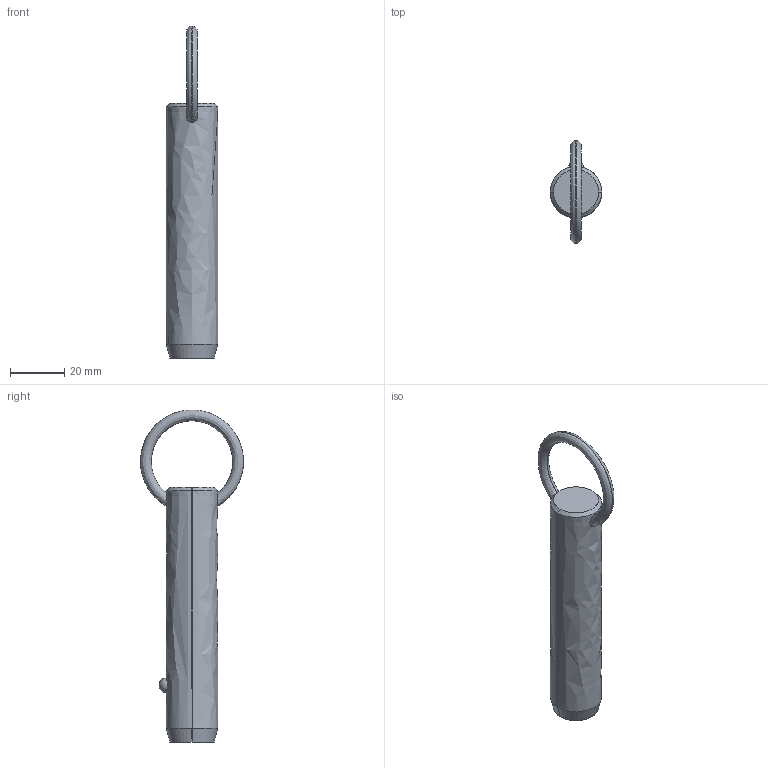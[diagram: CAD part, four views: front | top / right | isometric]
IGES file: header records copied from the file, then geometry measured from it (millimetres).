
Start section: SolidWorks IGES file using analytic representation for surfaces
Global section: file name: C:\Users\liam_\OneDrive\Documents\WORK\Work for WixRoyd\Job Files\J-00019 - Matt Davis CAD Checking\04. CAD Drawings\automotion20190605\P1250.2_v2\P1250.2_v2_20190729_IGES\P1250.075-240.igs; native system: SolidWorks 2017; preprocessor: SolidWorks 2017; author: liam_; date: 190729.235001; units: millimetre
Bounding box: 19 x 38.06 x 122.8 mm (x, y, z)
Surface area: 7155.6 mm2 (no closed solid volume)
Topology: 0 solids, 0 shells, 12 faces, 294 edges, 292 vertices
Faces by surface type: revolution 8, bspline 4
